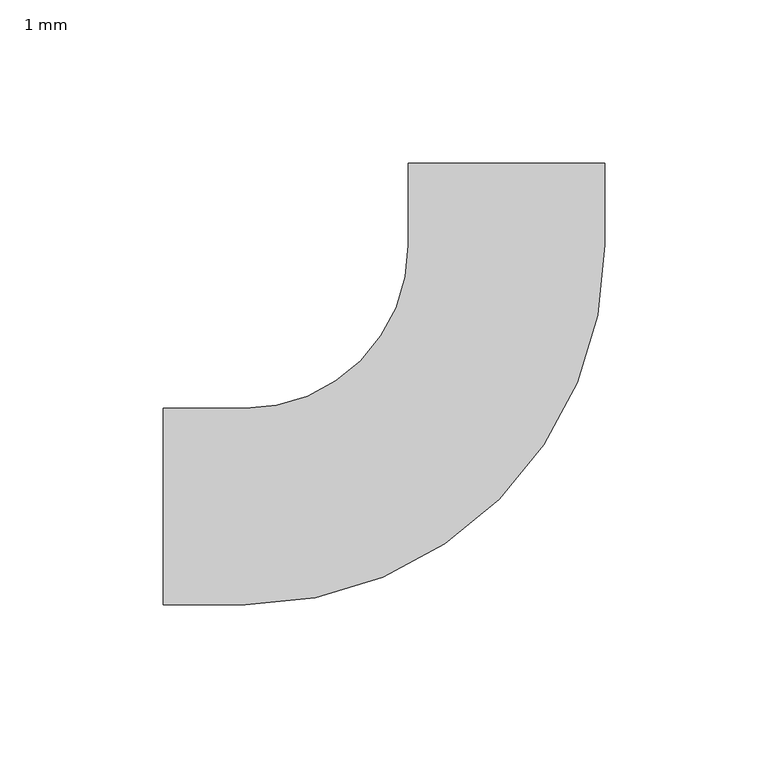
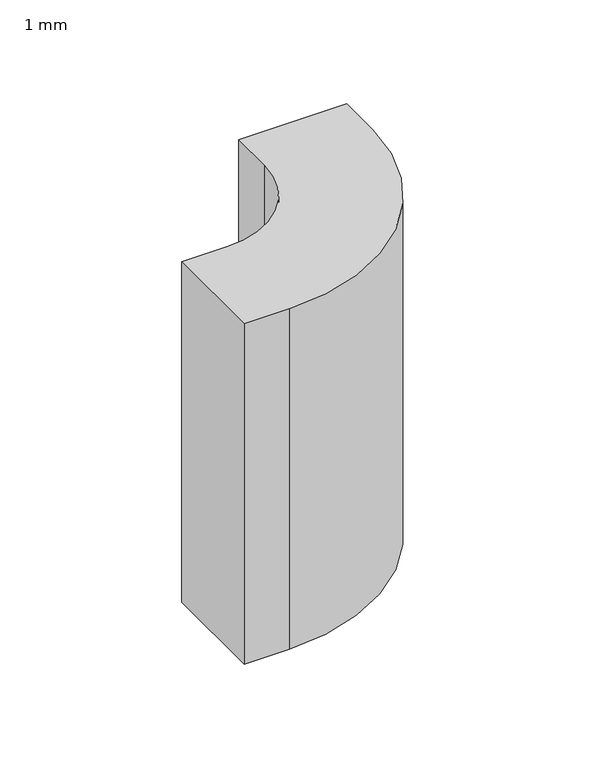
"""IFC4 building model written with IfcOpenShell, lengths in millimetres: cable carrier fitting geometry, BAKS_Łuk_koryta_pionowy (R50)w : 1 mm."""

from ifc_helpers import new_model, si_unit, point, frame, frame_2d, origin, place, context, project, spatial, polyline, circle_curve, trimmed, segment, composite_curve, outline, extrude, source, transform, mapped, element, save


def cable_carrier_fitting_1_mm_cfe8fd75(model_context):
    return source(origin(), model_context, "Body", "SweptSolid", [
        extrude(outline(composite_curve([segment(polyline([(-105.0, -30.0), (-105.0, 30.0), (-80.0, 30.0)]), True, "CONTINUOUS"), segment(trimmed(circle_curve(frame_2d((-80.0, 80.0)), 50.0), [point((-80.0, 30.0))], [point((-30.0, 80.0))], True, "CARTESIAN"), True, "CONTINUOUS"), segment(polyline([(-30.0, 80.0), (-30.0, 105.0), (30.0, 105.0), (30.0, 80.0)]), True, "CONTINUOUS"), segment(trimmed(circle_curve(frame_2d((-80.0, 80.0)), 110.0), [point((30.0, 80.0))], [point((-80.0, -30.0))], False, "CARTESIAN"), True, "CONTINUOUS"), segment(polyline([(-80.0, -30.0), (-105.0, -30.0)]), True, "CONTINUOUS")], self_intersect=False)), frame((0.0, 0.0, -100.0), z_axis=(0.0, 0.0, 1.0), x_axis=(1.0, 0.0, 0.0)), (0.0, 0.0, 1.0), 200.0),
    ])


if __name__ == "__main__":
    model = new_model("IFC4")
    model_context = context("Model", 3, world=origin())
    ifc_project = project(units=[si_unit("LENGTHUNIT", "METRE", prefix="MILLI")], contexts=[model_context])
    site = spatial("IfcSite", under=ifc_project)
    building = spatial("IfcBuilding", under=site)
    placement = place(None, origin())
    cable_carrier_fitting_1_mm_shape = cable_carrier_fitting_1_mm_cfe8fd75(model_context)
    element("IfcCableCarrierFitting", 1, ObjectType="BAKS_Łuk_koryta_pionowy (R50)w : 1 mm", at=placement, inside=building, context=model_context, shape_type="MappedRepresentation", body=[
        mapped(cable_carrier_fitting_1_mm_shape, transform((0.0, 0.0, 0.0), x_axis=(1.0, 0.0, 0.0), y_axis=(0.0, 1.0, 0.0), z_axis=(0.0, 0.0, 1.0))),
    ])
    save(model, "model.ifc")
